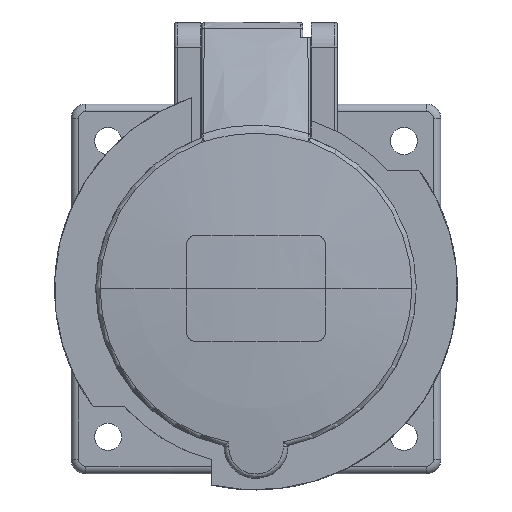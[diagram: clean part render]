
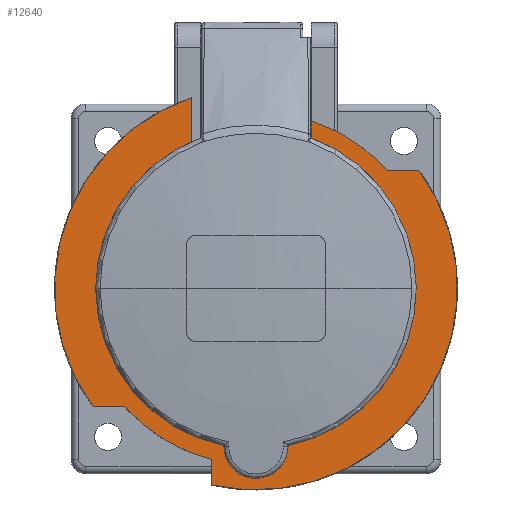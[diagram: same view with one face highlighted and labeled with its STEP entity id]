
A CAD part, top view. The second image highlights one B-rep face of the part: STEP entity #12640.
In plain terms, the highlighted planar face has unit normal (0, 0, 1).
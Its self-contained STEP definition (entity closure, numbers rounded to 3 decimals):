
#12423 = VERTEX_POINT('',#12424);
#12424 = CARTESIAN_POINT('',(11.2,34.056,48.5));
#12432 = EDGE_CURVE('',#12433,#12423,#12435,.T.);
#12433 = VERTEX_POINT('',#12434);
#12434 = CARTESIAN_POINT('',(26.631,24.,48.5));
#12435 = CIRCLE('',#12436,35.85);
#12436 = AXIS2_PLACEMENT_3D('',#12437,#12438,#12439);
#12437 = CARTESIAN_POINT('',(0.,0.,48.5));
#12438 = DIRECTION('',(0.,0.,1.));
#12439 = DIRECTION('',(0.743,0.669,-0.));
#12509 = VERTEX_POINT('',#12510);
#12510 = CARTESIAN_POINT('',(-9.,-34.702,48.5));
#12516 = EDGE_CURVE('',#12517,#12509,#12519,.T.);
#12517 = VERTEX_POINT('',#12518);
#12518 = CARTESIAN_POINT('',(-26.631,-24.,48.5));
#12519 = CIRCLE('',#12520,35.85);
#12520 = AXIS2_PLACEMENT_3D('',#12521,#12522,#12523);
#12521 = CARTESIAN_POINT('',(0.,0.,48.5));
#12522 = DIRECTION('',(0.,0.,1.));
#12523 = DIRECTION('',(-0.743,-0.669,0.));
#12621 = VERTEX_POINT('',#12622);
#12622 = CARTESIAN_POINT('',(11.2,31.7,48.5));
#12628 = EDGE_CURVE('',#12423,#12621,#12629,.T.);
#12629 = LINE('',#12630,#12631);
#12630 = CARTESIAN_POINT('',(11.2,34.056,48.5));
#12631 = VECTOR('',#12632,1.);
#12632 = DIRECTION('',(0.,-1.,0.));
#12640 = ADVANCED_FACE('',(#12641),#12727,.F.);
#12641 = FACE_BOUND('',#12642,.T.);
#12642 = EDGE_LOOP('',(#12643,#12651,#12652,#12653,#12661,#12670,#12679,
    #12688,#12696,#12705,#12711,#12712,#12720));
#12643 = ORIENTED_EDGE('',*,*,#12644,.T.);
#12644 = EDGE_CURVE('',#12645,#12433,#12647,.T.);
#12645 = VERTEX_POINT('',#12646);
#12646 = CARTESIAN_POINT('',(33.056,24.,48.5));
#12647 = LINE('',#12648,#12649);
#12648 = CARTESIAN_POINT('',(33.056,24.,48.5));
#12649 = VECTOR('',#12650,1.);
#12650 = DIRECTION('',(-1.,0.,0.));
#12651 = ORIENTED_EDGE('',*,*,#12432,.T.);
#12652 = ORIENTED_EDGE('',*,*,#12628,.T.);
#12653 = ORIENTED_EDGE('',*,*,#12654,.T.);
#12654 = EDGE_CURVE('',#12621,#12655,#12657,.T.);
#12655 = VERTEX_POINT('',#12656);
#12656 = CARTESIAN_POINT('',(11.2,30.509,48.5));
#12657 = LINE('',#12658,#12659);
#12658 = CARTESIAN_POINT('',(11.2,31.7,48.5));
#12659 = VECTOR('',#12660,1.);
#12660 = DIRECTION('',(0.,-1.,0.));
#12661 = ORIENTED_EDGE('',*,*,#12662,.F.);
#12662 = EDGE_CURVE('',#12663,#12655,#12665,.T.);
#12663 = VERTEX_POINT('',#12664);
#12664 = CARTESIAN_POINT('',(6.498,-31.844,48.5));
#12665 = CIRCLE('',#12666,32.5);
#12666 = AXIS2_PLACEMENT_3D('',#12667,#12668,#12669);
#12667 = CARTESIAN_POINT('',(0.,0.,48.5));
#12668 = DIRECTION('',(0.,0.,1.));
#12669 = DIRECTION('',(0.2,-0.98,0.));
#12670 = ORIENTED_EDGE('',*,*,#12671,.F.);
#12671 = EDGE_CURVE('',#12672,#12663,#12674,.T.);
#12672 = VERTEX_POINT('',#12673);
#12673 = CARTESIAN_POINT('',(-6.498,-31.844,48.5));
#12674 = CIRCLE('',#12675,6.5);
#12675 = AXIS2_PLACEMENT_3D('',#12676,#12677,#12678);
#12676 = CARTESIAN_POINT('',(0.,-32.,48.5));
#12677 = DIRECTION('',(0.,0.,1.));
#12678 = DIRECTION('',(-1.,0.024,0.));
#12679 = ORIENTED_EDGE('',*,*,#12680,.F.);
#12680 = EDGE_CURVE('',#12681,#12672,#12683,.T.);
#12681 = VERTEX_POINT('',#12682);
#12682 = CARTESIAN_POINT('',(-13.,29.787,48.5));
#12683 = CIRCLE('',#12684,32.5);
#12684 = AXIS2_PLACEMENT_3D('',#12685,#12686,#12687);
#12685 = CARTESIAN_POINT('',(0.,0.,48.5));
#12686 = DIRECTION('',(0.,0.,1.));
#12687 = DIRECTION('',(-0.4,0.917,0.));
#12688 = ORIENTED_EDGE('',*,*,#12689,.T.);
#12689 = EDGE_CURVE('',#12681,#12690,#12692,.T.);
#12690 = VERTEX_POINT('',#12691);
#12691 = CARTESIAN_POINT('',(-13.,38.726,48.5));
#12692 = LINE('',#12693,#12694);
#12693 = CARTESIAN_POINT('',(-13.,29.787,48.5));
#12694 = VECTOR('',#12695,1.);
#12695 = DIRECTION('',(0.,1.,0.));
#12696 = ORIENTED_EDGE('',*,*,#12697,.T.);
#12697 = EDGE_CURVE('',#12690,#12698,#12700,.T.);
#12698 = VERTEX_POINT('',#12699);
#12699 = CARTESIAN_POINT('',(-33.056,-24.,48.5));
#12700 = CIRCLE('',#12701,40.85);
#12701 = AXIS2_PLACEMENT_3D('',#12702,#12703,#12704);
#12702 = CARTESIAN_POINT('',(0.,0.,48.5));
#12703 = DIRECTION('',(0.,0.,1.));
#12704 = DIRECTION('',(-0.318,0.948,0.));
#12705 = ORIENTED_EDGE('',*,*,#12706,.T.);
#12706 = EDGE_CURVE('',#12698,#12517,#12707,.T.);
#12707 = LINE('',#12708,#12709);
#12708 = CARTESIAN_POINT('',(-33.056,-24.,48.5));
#12709 = VECTOR('',#12710,1.);
#12710 = DIRECTION('',(1.,0.,0.));
#12711 = ORIENTED_EDGE('',*,*,#12516,.T.);
#12712 = ORIENTED_EDGE('',*,*,#12713,.F.);
#12713 = EDGE_CURVE('',#12714,#12509,#12716,.T.);
#12714 = VERTEX_POINT('',#12715);
#12715 = CARTESIAN_POINT('',(-9.,-39.846,48.5));
#12716 = LINE('',#12717,#12718);
#12717 = CARTESIAN_POINT('',(-9.,-39.846,48.5));
#12718 = VECTOR('',#12719,1.);
#12719 = DIRECTION('',(0.,1.,0.));
#12720 = ORIENTED_EDGE('',*,*,#12721,.T.);
#12721 = EDGE_CURVE('',#12714,#12645,#12722,.T.);
#12722 = CIRCLE('',#12723,40.85);
#12723 = AXIS2_PLACEMENT_3D('',#12724,#12725,#12726);
#12724 = CARTESIAN_POINT('',(0.,0.,48.5));
#12725 = DIRECTION('',(0.,0.,1.));
#12726 = DIRECTION('',(-0.22,-0.975,0.));
#12727 = PLANE('',#12728);
#12728 = AXIS2_PLACEMENT_3D('',#12729,#12730,#12731);
#12729 = CARTESIAN_POINT('',(0.,0.,48.5));
#12730 = DIRECTION('',(0.,0.,-1.));
#12731 = DIRECTION('',(1.,0.,0.));
